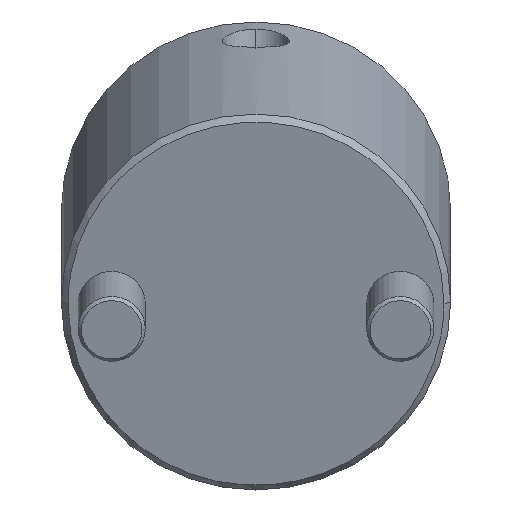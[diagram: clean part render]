
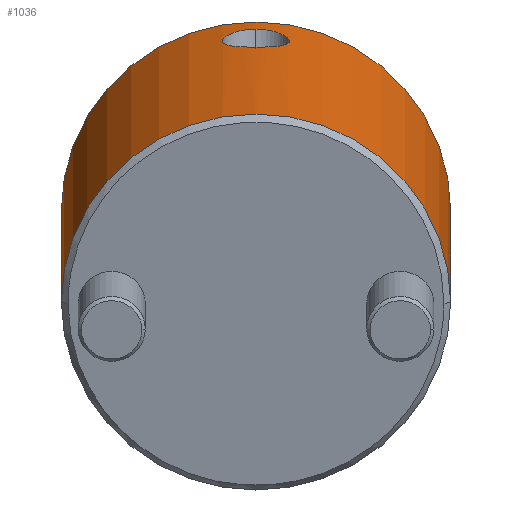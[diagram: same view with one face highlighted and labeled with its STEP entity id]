
A CAD part, front view. The second image highlights one B-rep face of the part: STEP entity #1036.
In plain terms, the highlighted cylindrical face has radius 29 mm (diameter 58 mm), a partial arc.
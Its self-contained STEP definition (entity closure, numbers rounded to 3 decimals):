
#772=CARTESIAN_POINT('Vertex',(0.,29.,1.)) ;
#775=CARTESIAN_POINT('Axis2P3D Location',(0.,0.,1.)) ;
#779=CARTESIAN_POINT('Vertex',(0.,-29.,1.)) ;
#931=CARTESIAN_POINT('Axis2P3D Location',(0.,0.,-2.75)) ;
#936=CARTESIAN_POINT('Line Origine',(0.,29.,-2.75)) ;
#940=CARTESIAN_POINT('Vertex',(0.,29.,54.)) ;
#943=CARTESIAN_POINT('Axis2P3D Location',(0.,0.,54.)) ;
#947=CARTESIAN_POINT('Vertex',(0.,-29.,54.)) ;
#950=CARTESIAN_POINT('Line Origine',(0.,-29.,-2.75)) ;
#962=CARTESIAN_POINT('Control Point',(29.,0.,49.884)) ;
#963=CARTESIAN_POINT('Control Point',(29.,0.418,49.884)) ;
#964=CARTESIAN_POINT('Control Point',(28.992,0.835,49.838)) ;
#965=CARTESIAN_POINT('Control Point',(28.977,1.251,49.742)) ;
#966=CARTESIAN_POINT('Control Point',(28.939,1.957,49.494)) ;
#967=CARTESIAN_POINT('Control Point',(28.884,2.612,49.109)) ;
#968=CARTESIAN_POINT('Control Point',(28.858,2.882,48.92)) ;
#969=CARTESIAN_POINT('Control Point',(28.794,3.479,48.422)) ;
#970=CARTESIAN_POINT('Control Point',(28.727,3.987,47.807)) ;
#971=CARTESIAN_POINT('Control Point',(28.69,4.238,47.427)) ;
#972=CARTESIAN_POINT('Control Point',(28.641,4.556,46.814)) ;
#973=CARTESIAN_POINT('Control Point',(28.605,4.773,46.168)) ;
#974=CARTESIAN_POINT('Control Point',(28.594,4.834,45.951)) ;
#975=CARTESIAN_POINT('Control Point',(28.573,4.958,45.399)) ;
#976=CARTESIAN_POINT('Control Point',(28.564,5.011,44.833)) ;
#977=CARTESIAN_POINT('Control Point',(28.563,5.015,44.494)) ;
#978=CARTESIAN_POINT('Control Point',(28.57,4.978,43.933)) ;
#979=CARTESIAN_POINT('Control Point',(28.588,4.869,43.389)) ;
#980=CARTESIAN_POINT('Control Point',(28.598,4.815,43.177)) ;
#981=CARTESIAN_POINT('Control Point',(28.62,4.683,42.758)) ;
#982=CARTESIAN_POINT('Control Point',(28.648,4.507,42.357)) ;
#983=CARTESIAN_POINT('Control Point',(28.663,4.409,42.161)) ;
#984=CARTESIAN_POINT('Control Point',(28.696,4.192,41.782)) ;
#985=CARTESIAN_POINT('Control Point',(28.732,3.935,41.431)) ;
#986=CARTESIAN_POINT('Control Point',(28.751,3.797,41.262)) ;
#987=CARTESIAN_POINT('Control Point',(28.808,3.356,40.78)) ;
#988=CARTESIAN_POINT('Control Point',(28.864,2.84,40.375)) ;
#989=CARTESIAN_POINT('Control Point',(28.899,2.466,40.144)) ;
#990=CARTESIAN_POINT('Control Point',(28.952,1.765,39.81)) ;
#991=CARTESIAN_POINT('Control Point',(28.985,1.013,39.617)) ;
#992=CARTESIAN_POINT('Control Point',(28.995,0.677,39.56)) ;
#993=CARTESIAN_POINT('Control Point',(29.,0.34,39.532)) ;
#994=CARTESIAN_POINT('Control Point',(29.,0.,39.532)) ;
#995=CARTESIAN_POINT('Vertex',(29.,0.,49.884)) ;
#997=CARTESIAN_POINT('Vertex',(29.,0.,39.532)) ;
#1001=CARTESIAN_POINT('Control Point',(29.,0.,39.532)) ;
#1002=CARTESIAN_POINT('Control Point',(29.,-0.438,39.532)) ;
#1003=CARTESIAN_POINT('Control Point',(28.992,-0.872,39.578)) ;
#1004=CARTESIAN_POINT('Control Point',(28.975,-1.303,39.673)) ;
#1005=CARTESIAN_POINT('Control Point',(28.94,-1.925,39.882)) ;
#1006=CARTESIAN_POINT('Control Point',(28.893,-2.503,40.19)) ;
#1007=CARTESIAN_POINT('Control Point',(28.876,-2.69,40.303)) ;
#1008=CARTESIAN_POINT('Control Point',(28.84,-3.05,40.548)) ;
#1009=CARTESIAN_POINT('Control Point',(28.803,-3.38,40.831)) ;
#1010=CARTESIAN_POINT('Control Point',(28.784,-3.537,40.981)) ;
#1011=CARTESIAN_POINT('Control Point',(28.737,-3.91,41.38)) ;
#1012=CARTESIAN_POINT('Control Point',(28.692,-4.224,41.825)) ;
#1013=CARTESIAN_POINT('Control Point',(28.666,-4.39,42.108)) ;
#1014=CARTESIAN_POINT('Control Point',(28.606,-4.772,42.897)) ;
#1015=CARTESIAN_POINT('Control Point',(28.57,-4.979,43.757)) ;
#1016=CARTESIAN_POINT('Control Point',(28.559,-5.039,44.323)) ;
#1017=CARTESIAN_POINT('Control Point',(28.564,-5.013,45.122)) ;
#1018=CARTESIAN_POINT('Control Point',(28.592,-4.848,45.895)) ;
#1019=CARTESIAN_POINT('Control Point',(28.602,-4.79,46.114)) ;
#1020=CARTESIAN_POINT('Control Point',(28.637,-4.579,46.76)) ;
#1021=CARTESIAN_POINT('Control Point',(28.685,-4.268,47.377)) ;
#1022=CARTESIAN_POINT('Control Point',(28.722,-4.02,47.761)) ;
#1023=CARTESIAN_POINT('Control Point',(28.799,-3.448,48.469)) ;
#1024=CARTESIAN_POINT('Control Point',(28.872,-2.757,49.027)) ;
#1025=CARTESIAN_POINT('Control Point',(28.905,-2.387,49.263)) ;
#1026=CARTESIAN_POINT('Control Point',(28.956,-1.701,49.603)) ;
#1027=CARTESIAN_POINT('Control Point',(28.986,-0.97,49.799)) ;
#1028=CARTESIAN_POINT('Control Point',(28.995,-0.646,49.856)) ;
#1029=CARTESIAN_POINT('Control Point',(29.,-0.324,49.884)) ;
#1030=CARTESIAN_POINT('Control Point',(29.,0.,49.884)) ;
#776=DIRECTION('Axis2P3D Direction',(0.,0.,1.)) ;
#932=DIRECTION('Axis2P3D Direction',(0.,-0.,1.)) ;
#933=DIRECTION('Axis2P3D XDirection',(0.,-1.,0.)) ;
#937=DIRECTION('Vector Direction',(0.,0.,1.)) ;
#944=DIRECTION('Axis2P3D Direction',(0.,-0.,1.)) ;
#951=DIRECTION('Vector Direction',(0.,0.,1.)) ;
#777=AXIS2_PLACEMENT_3D('Circle Axis2P3D',#775,#776,$) ;
#934=AXIS2_PLACEMENT_3D('Cylinder Axis2P3D',#931,#932,#933) ;
#945=AXIS2_PLACEMENT_3D('Circle Axis2P3D',#943,#944,$) ;
#956=ORIENTED_EDGE('',*,*,#942,.F.) ;
#957=ORIENTED_EDGE('',*,*,#949,.T.) ;
#958=ORIENTED_EDGE('',*,*,#954,.T.) ;
#959=ORIENTED_EDGE('',*,*,#781,.F.) ;
#1033=ORIENTED_EDGE('',*,*,#999,.T.) ;
#1034=ORIENTED_EDGE('',*,*,#1031,.T.) ;
#1035=FACE_BOUND('',#1032,.T.) ;
#938=VECTOR('Line Direction',#937,1.) ;
#952=VECTOR('Line Direction',#951,1.) ;
#1036=ADVANCED_FACE('MANIFOLD_SOLID_BREP #1146',(#960,#1035),#935,.T.) ;
#961=B_SPLINE_CURVE_WITH_KNOTS('',5,(#962,#963,#964,#965,#966,#967,#968,#969,#970,#971,#972,#973,#974,#975,#976,#977,#978,#979,#980,#981,#982,#983,#984,#985,#986,#987,#988,#989,#990,#991,#992,#993,#994),.UNSPECIFIED.,.F.,.U.,(6,3,3,3,3,3,3,3,3,3,6),(0.,3.077,5.41,8.557,10.138,12.469,14.024,15.585,17.144,20.255,22.672),.UNSPECIFIED.) ;
#1000=B_SPLINE_CURVE_WITH_KNOTS('',5,(#1001,#1002,#1003,#1004,#1005,#1006,#1007,#1008,#1009,#1010,#1011,#1012,#1013,#1014,#1015,#1016,#1017,#1018,#1019,#1020,#1021,#1022,#1023,#1024,#1025,#1026,#1027,#1028,#1029,#1030),.UNSPECIFIED.,.F.,.U.,(6,3,3,3,3,3,3,3,3,6),(0.,3.118,4.673,6.231,8.57,12.455,14.035,17.179,20.289,22.669),.UNSPECIFIED.) ;
#778=CIRCLE('generated circle',#777,29.) ;
#946=CIRCLE('generated circle',#945,29.) ;
#935=CYLINDRICAL_SURFACE('generated cylinder',#934,29.) ;
#781=EDGE_CURVE('',#773,#780,#778,.F.) ;
#942=EDGE_CURVE('',#941,#773,#939,.F.) ;
#949=EDGE_CURVE('',#941,#948,#946,.F.) ;
#954=EDGE_CURVE('',#948,#780,#953,.F.) ;
#999=EDGE_CURVE('',#996,#998,#961,.T.) ;
#1031=EDGE_CURVE('',#998,#996,#1000,.T.) ;
#955=EDGE_LOOP('',(#956,#957,#958,#959)) ;
#1032=EDGE_LOOP('',(#1033,#1034)) ;
#960=FACE_OUTER_BOUND('',#955,.T.) ;
#939=LINE('Line',#936,#938) ;
#953=LINE('Line',#950,#952) ;
#773=VERTEX_POINT('',#772) ;
#780=VERTEX_POINT('',#779) ;
#941=VERTEX_POINT('',#940) ;
#948=VERTEX_POINT('',#947) ;
#996=VERTEX_POINT('',#995) ;
#998=VERTEX_POINT('',#997) ;
